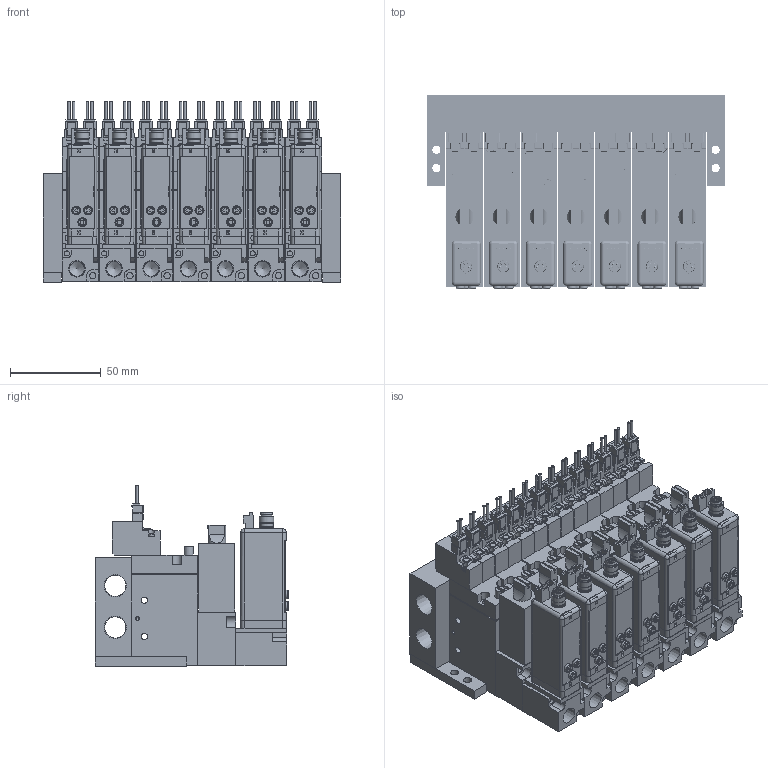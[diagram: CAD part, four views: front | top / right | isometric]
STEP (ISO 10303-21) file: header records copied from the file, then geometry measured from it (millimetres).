
FILE_DESCRIPTION(('STEP AP203'),'1');
FILE_NAME('BMPV32M2N20225BL707.stp','2025-06-16T09:01:57',(' '),(' '),'Spatial InterOp 3D',' ',' ');
FILE_SCHEMA(('CONFIG_CONTROL_DESIGN'));
Length unit declared in the file: millimetre
Products named in the file (88): BMPV32M2N20225BL707; MVS-202; ___-3(Rc); Filter Assy; __; _____; ___ ___; MB BRACKET; MB07; ___; upper plate-A; ______; ____; VACUUM VALVE FUNCTION MPV42-A
Assembly tree (87 placements, depth 2):
  BMPV32M2N20225BL707
    MVS-202
    ___-3(Rc)
    Filter Assy
    __
    _____
    ___ ___
    MVS-202
    ___-3(Rc)
    Filter Assy
    __
    _____
    ___ ___
    MVS-202
    ___-3(Rc)
    Filter Assy
    __
    _____
    ___ ___
    MVS-202
    ___-3(Rc)
    Filter Assy
    __
    _____
    ___ ___
    MVS-202
    ___-3(Rc)
    Filter Assy
    __
    _____
    ___ ___
    MVS-202
    ___-3(Rc)
    Filter Assy
    __
    _____
    ___ ___
    MB BRACKET
    MB BRACKET
    MB07
    MVS-202
    ___-3(Rc)
    Filter Assy
    __
    _____
    ___ ___
    ___
    upper plate-A
    ______
    ____
    VACUUM VALVE FUNCTION MPV42-A
    VACUUM VALVE FUNCTION MPV42-A
    ___
    upper plate-A
    ______
    ____
    VACUUM VALVE FUNCTION MPV42-A
    VACUUM VALVE FUNCTION MPV42-A
    ___
    upper plate-A
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Bounding box: 164 x 106.6 x 99.75 mm (x, y, z)
Volume: 897308.6 mm3; surface area: 314856 mm2
Topology: 87 solids, 115 shells, 5388 faces, 13827 edges, 9073 vertices
Faces by surface type: plane 4410, cylinder 809, cone 120, sphere 28, torus 21
Full cylindrical faces by diameter (mm): 1 x28, 1.4 x28, 1.5 x7, 1.8 x14, 2 x14, 2.5 x18, 2.8 x28, 3 x28, 3.5 x74, 4 x7, 4.2 x7, 4.5 x32, 4.8 x21, 5 x21, 5.5 x7, 5.8 x14, 6 x7, 6.5 x27, 7 x7, 7.2 x7, 7.9 x7, 8 x14, 8.2 x7, 8.759 x7, 11.776 x2
Entity records: 162644 total; most frequent: CARTESIAN_POINT 28421, ORIENTED_EDGE 26064, DIRECTION 25928, EDGE_CURVE 13032, LINE 10864, VECTOR 10864, VERTEX_POINT 8933, AXIS2_PLACEMENT_3D 7532
